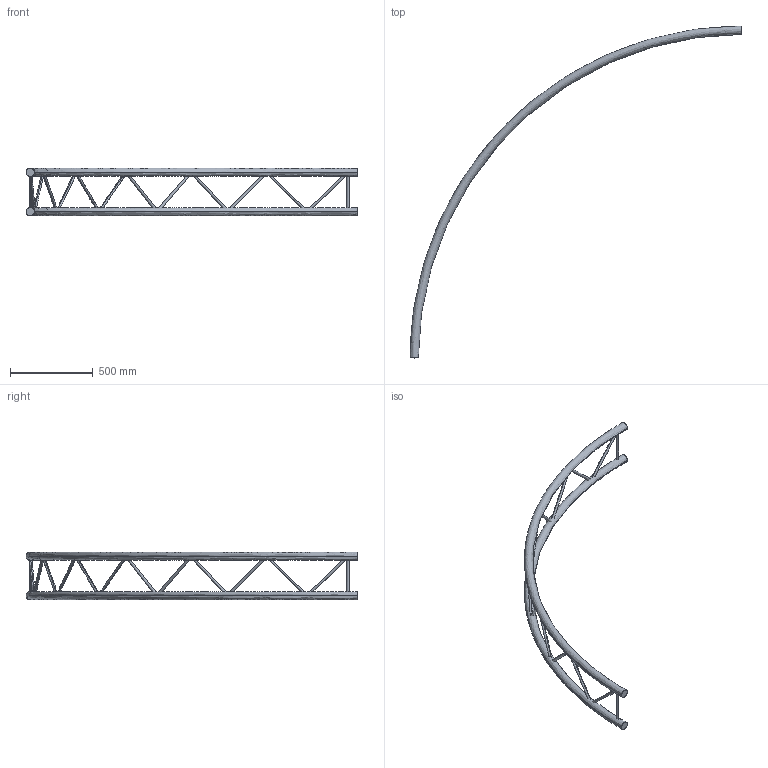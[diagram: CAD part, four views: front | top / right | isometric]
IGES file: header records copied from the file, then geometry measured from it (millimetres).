
Start section: SolidWorks IGES file using analytic representation for surfaces
Global section: file name: K:\BIBLIO\asd_biblio\EX290\Cercles\EXC290V\EXC29400V\EXC29400V.IGS; native system: SolidWorks 2009; preprocessor: SolidWorks 2009; author: des3; date: 091026.102059; units: millimetre
Bounding box: 2000 x 2000 x 287 mm (x, y, z)
Surface area: 1186691.7 mm2 (no closed solid volume)
Topology: 0 solids, 0 shells, 50 faces, 1898 edges, 1898 vertices
Faces by surface type: revolution 28, bspline 22
